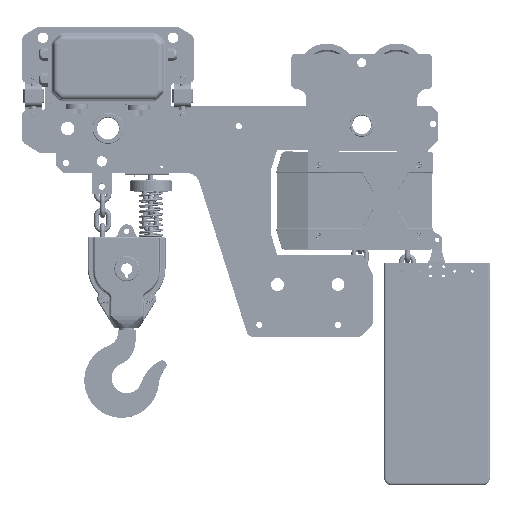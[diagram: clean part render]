
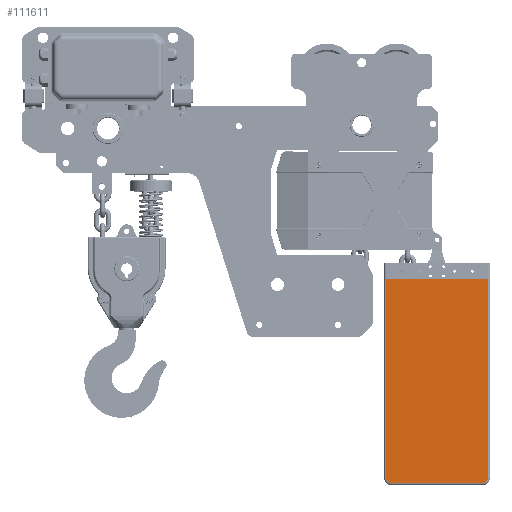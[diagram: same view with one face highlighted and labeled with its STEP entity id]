
A CAD part, top view. The second image highlights one B-rep face of the part: STEP entity #111611.
In plain terms, the highlighted planar face has unit normal (0, 0, 1).
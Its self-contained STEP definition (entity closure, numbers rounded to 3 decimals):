
#7922=LINE('',#164474,#16564);
#7923=LINE('',#164477,#16565);
#7924=LINE('',#164479,#16566);
#7925=LINE('',#164483,#16567);
#16564=VECTOR('',#133141,1000.);
#16565=VECTOR('',#133142,1000.);
#16566=VECTOR('',#133143,1000.);
#16567=VECTOR('',#133146,1000.);
#25322=ORIENTED_EDGE('',*,*,#59093,.T.);
#25323=ORIENTED_EDGE('',*,*,#59094,.T.);
#25324=ORIENTED_EDGE('',*,*,#59095,.T.);
#25325=ORIENTED_EDGE('',*,*,#59096,.T.);
#25326=ORIENTED_EDGE('',*,*,#59097,.T.);
#25327=ORIENTED_EDGE('',*,*,#59098,.T.);
#59093=EDGE_CURVE('',#75994,#75995,#7922,.T.);
#59094=EDGE_CURVE('',#75995,#75996,#7923,.F.);
#59095=EDGE_CURVE('',#75996,#75997,#7924,.F.);
#59096=EDGE_CURVE('',#75997,#75998,#86823,.T.);
#59097=EDGE_CURVE('',#75998,#75999,#7925,.T.);
#59098=EDGE_CURVE('',#75999,#75994,#86824,.T.);
#75994=VERTEX_POINT('',#164475);
#75995=VERTEX_POINT('',#164476);
#75996=VERTEX_POINT('',#164478);
#75997=VERTEX_POINT('',#164480);
#75998=VERTEX_POINT('',#164482);
#75999=VERTEX_POINT('',#164484);
#86823=CIRCLE('',#121645,11.);
#86824=CIRCLE('',#121646,11.);
#91811=EDGE_LOOP('',(#25322,#25323,#25324,#25325,#25326,#25327));
#100387=FACE_BOUND('',#91811,.T.);
#108957=PLANE('',#121644);
#111611=ADVANCED_FACE('',(#100387),#108957,.T.);
#121644=AXIS2_PLACEMENT_3D('',#164473,#133139,#133140);
#121645=AXIS2_PLACEMENT_3D('',#164481,#133144,#133145);
#121646=AXIS2_PLACEMENT_3D('',#164485,#133147,#133148);
#133139=DIRECTION('',(0.,0.,1.));
#133140=DIRECTION('',(1.,0.,0.));
#133141=DIRECTION('',(0.,1.,0.));
#133142=DIRECTION('',(1.,0.,0.));
#133143=DIRECTION('',(0.,1.,0.));
#133144=DIRECTION('',(0.,0.,1.));
#133145=DIRECTION('',(1.,0.,0.));
#133146=DIRECTION('',(1.,0.,0.));
#133147=DIRECTION('',(0.,0.,1.));
#133148=DIRECTION('',(1.,0.,0.));
#164473=CARTESIAN_POINT('',(1744.812,56.396,196.375));
#164474=CARTESIAN_POINT('',(1920.462,56.396,196.375));
#164475=CARTESIAN_POINT('',(1920.462,-249.604,196.375));
#164476=CARTESIAN_POINT('',(1920.462,143.396,196.375));
#164477=CARTESIAN_POINT('',(1744.812,143.396,196.375));
#164478=CARTESIAN_POINT('',(1718.662,143.396,196.375));
#164479=CARTESIAN_POINT('',(1718.662,56.396,196.375));
#164480=CARTESIAN_POINT('',(1718.662,-249.604,196.375));
#164481=CARTESIAN_POINT('',(1729.662,-249.604,196.375));
#164482=CARTESIAN_POINT('',(1729.662,-260.604,196.375));
#164483=CARTESIAN_POINT('',(1909.462,-260.604,196.375));
#164484=CARTESIAN_POINT('',(1909.462,-260.604,196.375));
#164485=CARTESIAN_POINT('',(1909.462,-249.604,196.375));
